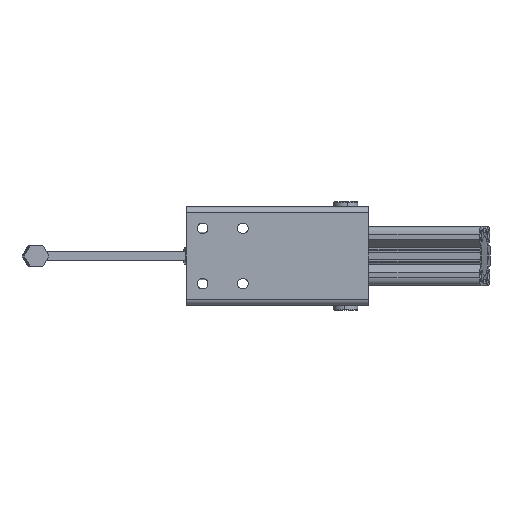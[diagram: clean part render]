
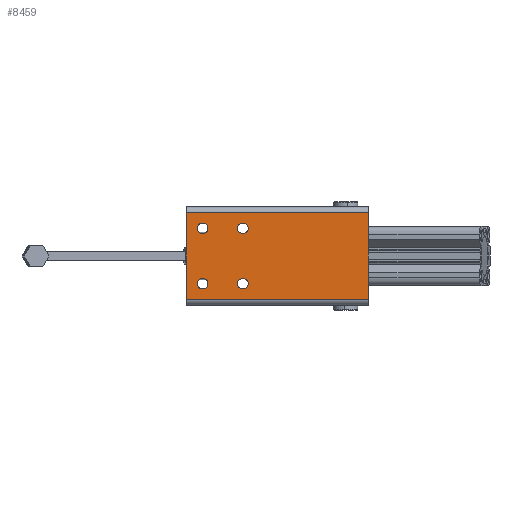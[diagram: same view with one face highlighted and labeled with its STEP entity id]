
A CAD part, front view. The second image highlights one B-rep face of the part: STEP entity #8459.
In plain terms, the highlighted planar face has unit normal (0, -1, 0).
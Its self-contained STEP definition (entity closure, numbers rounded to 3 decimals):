
#105 = VERTEX_POINT ( 'NONE', #12175 ) ;
#269 = VERTEX_POINT ( 'NONE', #6883 ) ;
#426 = CARTESIAN_POINT ( 'NONE',  ( 22., -3.75, -17.25 ) ) ;
#486 = VECTOR ( 'NONE', #7421, 1000. ) ;
#520 = PLANE ( 'NONE',  #12601 ) ;
#661 = CIRCLE ( 'NONE', #15709, 4.25 ) ;
#762 = VERTEX_POINT ( 'NONE', #2650 ) ;
#873 = ORIENTED_EDGE ( 'NONE', *, *, #6739, .T. ) ;
#1101 = CARTESIAN_POINT ( 'NONE',  ( 98.5, -3.75, -145. ) ) ;
#1113 = CARTESIAN_POINT ( 'NONE',  ( -22., -3.75, -8.75 ) ) ;
#1129 = EDGE_CURVE ( 'NONE', #105, #3062, #3917, .T. ) ;
#1318 = CARTESIAN_POINT ( 'NONE',  ( 22., -3.75, -13. ) ) ;
#1394 = EDGE_LOOP ( 'NONE', ( #13133, #2602, #17661, #18292 ) ) ;
#1704 = FACE_BOUND ( 'NONE', #20375, .T. ) ;
#1879 = VECTOR ( 'NONE', #12181, 1000. ) ;
#2096 = DIRECTION ( 'NONE',  ( 0., 0., 1. ) ) ;
#2371 = LINE ( 'NONE', #10593, #1879 ) ;
#2468 = CARTESIAN_POINT ( 'NONE',  ( -22., -3.75, -45. ) ) ;
#2602 = ORIENTED_EDGE ( 'NONE', *, *, #18415, .F. ) ;
#2625 = CARTESIAN_POINT ( 'NONE',  ( -22., -3.75, -45. ) ) ;
#2650 = CARTESIAN_POINT ( 'NONE',  ( -22., -3.75, -17.25 ) ) ;
#2675 = CARTESIAN_POINT ( 'NONE',  ( 22., -3.75, -13. ) ) ;
#2911 = DIRECTION ( 'NONE',  ( 0., 0., 1. ) ) ;
#3001 = CARTESIAN_POINT ( 'NONE',  ( 22., -3.75, -40.75 ) ) ;
#3003 = ORIENTED_EDGE ( 'NONE', *, *, #8779, .T. ) ;
#3062 = VERTEX_POINT ( 'NONE', #426 ) ;
#3322 = AXIS2_PLACEMENT_3D ( 'NONE', #14888, #5468, #16464 ) ;
#3558 = EDGE_CURVE ( 'NONE', #12629, #8418, #8894, .T. ) ;
#3917 = CIRCLE ( 'NONE', #16935, 4.25 ) ;
#4060 = DIRECTION ( 'NONE',  ( 0., 0., 1. ) ) ;
#4224 = DIRECTION ( 'NONE',  ( 0., 0., 1. ) ) ;
#4241 = CARTESIAN_POINT ( 'NONE',  ( 34.5, -3.75, -125. ) ) ;
#4262 = DIRECTION ( 'NONE',  ( 0., 0., 1. ) ) ;
#5179 = ORIENTED_EDGE ( 'NONE', *, *, #10248, .T. ) ;
#5243 = CARTESIAN_POINT ( 'NONE',  ( 22., -3.75, -45. ) ) ;
#5310 = VERTEX_POINT ( 'NONE', #7042 ) ;
#5462 = AXIS2_PLACEMENT_3D ( 'NONE', #2468, #13479, #4060 ) ;
#5468 = DIRECTION ( 'NONE',  ( 0., 1., 0. ) ) ;
#5483 = EDGE_CURVE ( 'NONE', #8418, #12988, #20154, .T. ) ;
#5493 = CARTESIAN_POINT ( 'NONE',  ( -22., -3.75, -40.75 ) ) ;
#5904 = FACE_BOUND ( 'NONE', #8984, .T. ) ;
#6247 = EDGE_CURVE ( 'NONE', #19244, #269, #661, .T. ) ;
#6482 = CARTESIAN_POINT ( 'NONE',  ( -34.5, -3.75, -145. ) ) ;
#6739 = EDGE_CURVE ( 'NONE', #5310, #16811, #6837, .T. ) ;
#6830 = DIRECTION ( 'NONE',  ( 0., 0., 1. ) ) ;
#6837 = CIRCLE ( 'NONE', #7561, 4.25 ) ;
#6883 = CARTESIAN_POINT ( 'NONE',  ( 22., -3.75, -49.25 ) ) ;
#7042 = CARTESIAN_POINT ( 'NONE',  ( -22., -3.75, -49.25 ) ) ;
#7148 = ORIENTED_EDGE ( 'NONE', *, *, #1129, .T. ) ;
#7421 = DIRECTION ( 'NONE',  ( 0., 0., -1. ) ) ;
#7561 = AXIS2_PLACEMENT_3D ( 'NONE', #2625, #13654, #4224 ) ;
#7600 = VECTOR ( 'NONE', #9117, 1000. ) ;
#7807 = CARTESIAN_POINT ( 'NONE',  ( -34.5, -3.75, -125. ) ) ;
#7916 = VECTOR ( 'NONE', #12548, 1000. ) ;
#8400 = AXIS2_PLACEMENT_3D ( 'NONE', #1318, #12361, #2911 ) ;
#8418 = VERTEX_POINT ( 'NONE', #11487 ) ;
#8456 = CIRCLE ( 'NONE', #8400, 4.25 ) ;
#8459 = ADVANCED_FACE ( 'NONE', ( #10076, #18456, #11570, #5904, #1704 ), #520, .F. ) ;
#8521 = CARTESIAN_POINT ( 'NONE',  ( -22., -3.75, -13. ) ) ;
#8779 = EDGE_CURVE ( 'NONE', #16811, #5310, #13030, .T. ) ;
#8894 = LINE ( 'NONE', #4241, #486 ) ;
#8984 = EDGE_LOOP ( 'NONE', ( #20422, #18017 ) ) ;
#9031 = CARTESIAN_POINT ( 'NONE',  ( 22., -3.75, -45. ) ) ;
#9117 = DIRECTION ( 'NONE',  ( -1., 0., 0. ) ) ;
#10076 = FACE_OUTER_BOUND ( 'NONE', #1394, .T. ) ;
#10098 = DIRECTION ( 'NONE',  ( 0., 0., 1. ) ) ;
#10248 = EDGE_CURVE ( 'NONE', #269, #19244, #10254, .T. ) ;
#10254 = CIRCLE ( 'NONE', #12508, 4.25 ) ;
#10383 = CARTESIAN_POINT ( 'NONE',  ( -34.5, -3.75, 0. ) ) ;
#10593 = CARTESIAN_POINT ( 'NONE',  ( -44.461, -3.75, 0. ) ) ;
#10609 = DIRECTION ( 'NONE',  ( 0., 0., 1. ) ) ;
#10652 = CIRCLE ( 'NONE', #20123, 4.25 ) ;
#11487 = CARTESIAN_POINT ( 'NONE',  ( 34.5, -3.75, -145. ) ) ;
#11557 = DIRECTION ( 'NONE',  ( 0., 1., 0. ) ) ;
#11570 = FACE_BOUND ( 'NONE', #17485, .T. ) ;
#12075 = LINE ( 'NONE', #7807, #7916 ) ;
#12175 = CARTESIAN_POINT ( 'NONE',  ( 22., -3.75, -8.75 ) ) ;
#12181 = DIRECTION ( 'NONE',  ( 1., 0., 0. ) ) ;
#12361 = DIRECTION ( 'NONE',  ( 0., 1., 0. ) ) ;
#12508 = AXIS2_PLACEMENT_3D ( 'NONE', #9031, #20039, #10609 ) ;
#12548 = DIRECTION ( 'NONE',  ( 0., 0., 1. ) ) ;
#12601 = AXIS2_PLACEMENT_3D ( 'NONE', #16212, #11557, #2096 ) ;
#12629 = VERTEX_POINT ( 'NONE', #13285 ) ;
#12988 = VERTEX_POINT ( 'NONE', #6482 ) ;
#13030 = CIRCLE ( 'NONE', #5462, 4.25 ) ;
#13133 = ORIENTED_EDGE ( 'NONE', *, *, #3558, .F. ) ;
#13285 = CARTESIAN_POINT ( 'NONE',  ( 34.5, -3.75, 0. ) ) ;
#13479 = DIRECTION ( 'NONE',  ( 0., 1., 0. ) ) ;
#13654 = DIRECTION ( 'NONE',  ( 0., 1., 0. ) ) ;
#13697 = DIRECTION ( 'NONE',  ( 0., 1., 0. ) ) ;
#13986 = EDGE_LOOP ( 'NONE', ( #15267, #5179 ) ) ;
#14404 = EDGE_CURVE ( 'NONE', #17745, #762, #10652, .T. ) ;
#14888 = CARTESIAN_POINT ( 'NONE',  ( -22., -3.75, -13. ) ) ;
#14943 = EDGE_CURVE ( 'NONE', #3062, #105, #8456, .T. ) ;
#15267 = ORIENTED_EDGE ( 'NONE', *, *, #6247, .T. ) ;
#15709 = AXIS2_PLACEMENT_3D ( 'NONE', #5243, #16241, #6830 ) ;
#16054 = VERTEX_POINT ( 'NONE', #10383 ) ;
#16201 = CIRCLE ( 'NONE', #3322, 4.25 ) ;
#16212 = CARTESIAN_POINT ( 'NONE',  ( 98.5, -3.75, -125. ) ) ;
#16241 = DIRECTION ( 'NONE',  ( 0., 1., 0. ) ) ;
#16464 = DIRECTION ( 'NONE',  ( 0., 0., 1. ) ) ;
#16509 = EDGE_CURVE ( 'NONE', #12988, #16054, #12075, .T. ) ;
#16811 = VERTEX_POINT ( 'NONE', #5493 ) ;
#16935 = AXIS2_PLACEMENT_3D ( 'NONE', #2675, #13697, #4262 ) ;
#17485 = EDGE_LOOP ( 'NONE', ( #3003, #873 ) ) ;
#17561 = EDGE_CURVE ( 'NONE', #762, #17745, #16201, .T. ) ;
#17661 = ORIENTED_EDGE ( 'NONE', *, *, #16509, .F. ) ;
#17745 = VERTEX_POINT ( 'NONE', #1113 ) ;
#17759 = ORIENTED_EDGE ( 'NONE', *, *, #14943, .T. ) ;
#18017 = ORIENTED_EDGE ( 'NONE', *, *, #17561, .T. ) ;
#18292 = ORIENTED_EDGE ( 'NONE', *, *, #5483, .F. ) ;
#18415 = EDGE_CURVE ( 'NONE', #16054, #12629, #2371, .T. ) ;
#18456 = FACE_BOUND ( 'NONE', #13986, .T. ) ;
#19244 = VERTEX_POINT ( 'NONE', #3001 ) ;
#19521 = DIRECTION ( 'NONE',  ( 0., 1., 0. ) ) ;
#20039 = DIRECTION ( 'NONE',  ( 0., 1., 0. ) ) ;
#20123 = AXIS2_PLACEMENT_3D ( 'NONE', #8521, #19521, #10098 ) ;
#20154 = LINE ( 'NONE', #1101, #7600 ) ;
#20375 = EDGE_LOOP ( 'NONE', ( #7148, #17759 ) ) ;
#20422 = ORIENTED_EDGE ( 'NONE', *, *, #14404, .T. ) ;
